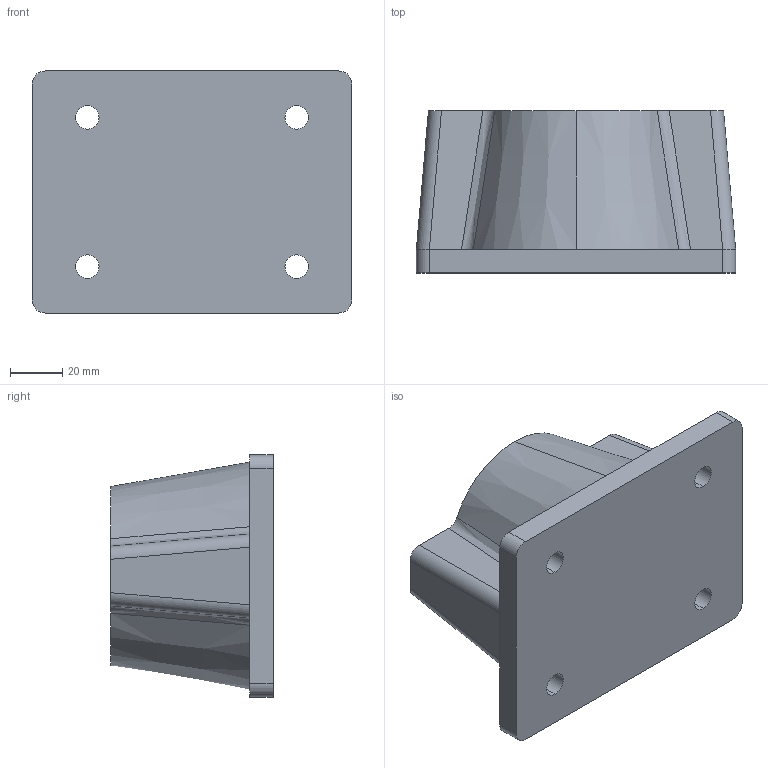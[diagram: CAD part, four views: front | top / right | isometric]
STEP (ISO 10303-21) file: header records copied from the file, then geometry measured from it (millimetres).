
FILE_DESCRIPTION (( 'STEP AP203' ), '1' );
FILE_NAME ('106582.STEP', '2016-02-15T08:42:50', ( '' ), ( '' ), 'SwSTEP 2.0', 'SolidWorks 2016', '' );
FILE_SCHEMA (( 'CONFIG_CONTROL_DESIGN' ));
Length unit declared in the file: millimetre
Products named in the file (1): 106582
Bounding box: 122 x 62 x 92.5 mm (x, y, z)
Volume: 410184 mm3; surface area: 41568 mm2
Topology: 1 solids, 1 shells, 37 faces, 101 edges, 66 vertices
Faces by surface type: cylinder 16, plane 14, bspline 4, cone 3
Entity records: 1398 total; most frequent: CARTESIAN_POINT 409, ORIENTED_EDGE 202, DIRECTION 175, EDGE_CURVE 101, VERTEX_POINT 66, AXIS2_PLACEMENT_3D 64, LINE 47, VECTOR 47
